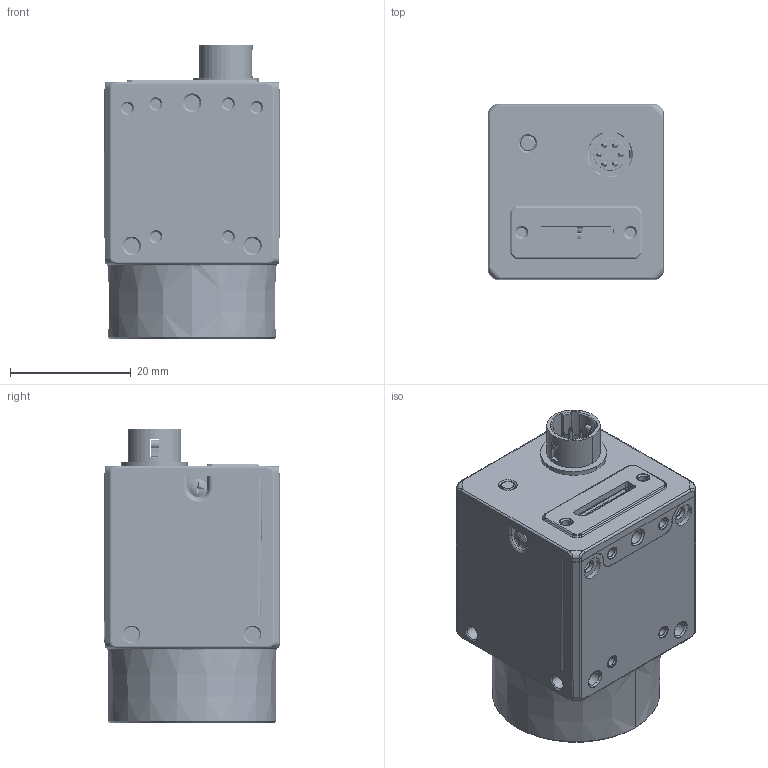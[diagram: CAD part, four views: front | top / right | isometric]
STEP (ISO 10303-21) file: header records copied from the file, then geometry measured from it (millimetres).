
FILE_DESCRIPTION((''),'2;1');
FILE_NAME('FRONT-MV-CH120-60UMUC_ASM','2024-03-19T11:21:52',('xueqinyuan'),(''),'CREO PARAMETRIC BY PTC INC, 2020044','CREO PARAMETRIC BY PTC INC, 2020044','');
FILE_SCHEMA(('CONFIG_CONTROL_DESIGN'));
Products named in the file (1): FRONT-MV-CH120-60UMUC_ASM
Bounding box: 29.03 x 29 x 48.76 mm (x, y, z)
Volume: 21553 mm3; surface area: 22653.4 mm2
Topology: 6 solids, 58 shells, 6886 faces, 19194 edges, 12461 vertices
Faces by surface type: plane 3480, cylinder 2348, bspline 541, torus 215, cone 142, extrusion 94, sphere 66
Entity records: 261853 total; most frequent: CARTESIAN_POINT 89266, ORIENTED_EDGE 38146, DIRECTION 33266, EDGE_CURVE 19168, VERTEX_POINT 12461, VECTOR 11346, LINE 11252, AXIS2_PLACEMENT_3D 10960
